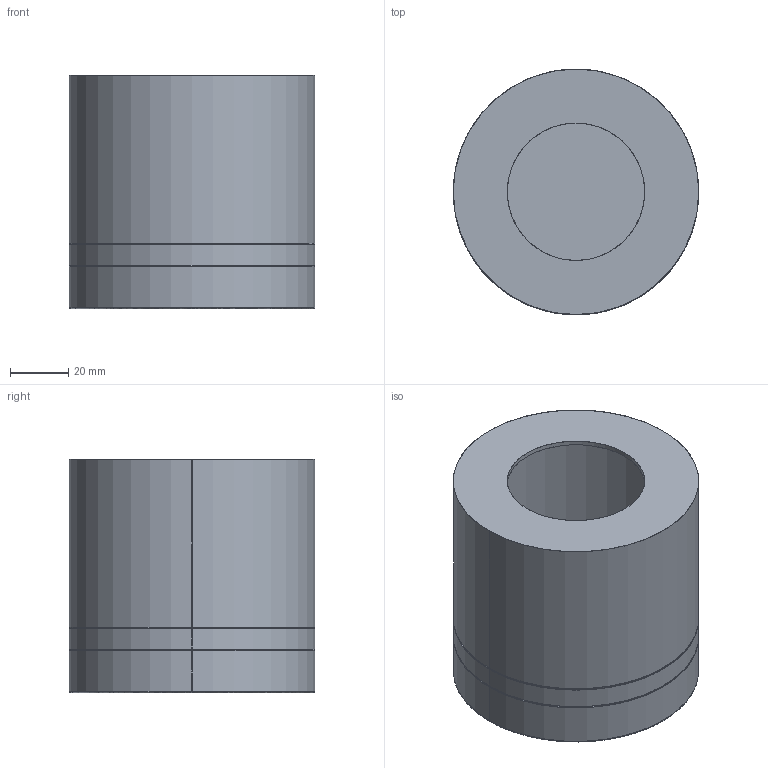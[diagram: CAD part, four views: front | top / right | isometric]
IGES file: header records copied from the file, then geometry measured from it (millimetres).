
Start section: SolidWorks IGES file using analytic representation for surfaces
Global section: file name: C:\Users\anna.bielnik\Desktop\modele 3D tymczasowe\CRES\z³o¿enie CRES.IGS; native system: SolidWorks 2023; preprocessor: SolidWorks 2023; author: anna.bielnik; date: 230711.101847; units: millimetre
Bounding box: 84 x 84 x 80 mm (x, y, z)
Surface area: 65325.1 mm2 (no closed solid volume)
Topology: 0 solids, 0 shells, 35 faces, 1128 edges, 1128 vertices
Faces by surface type: revolution 18, bspline 17
